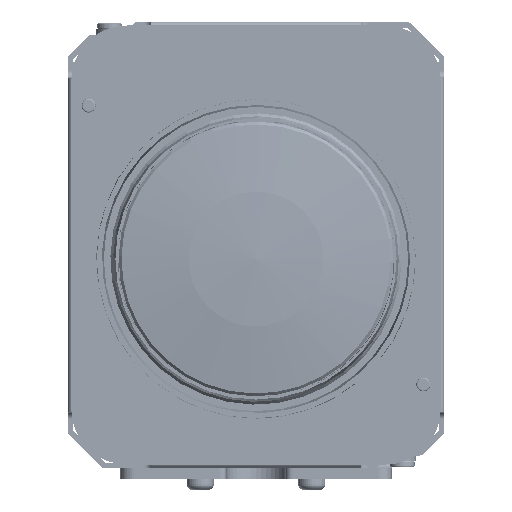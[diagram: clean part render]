
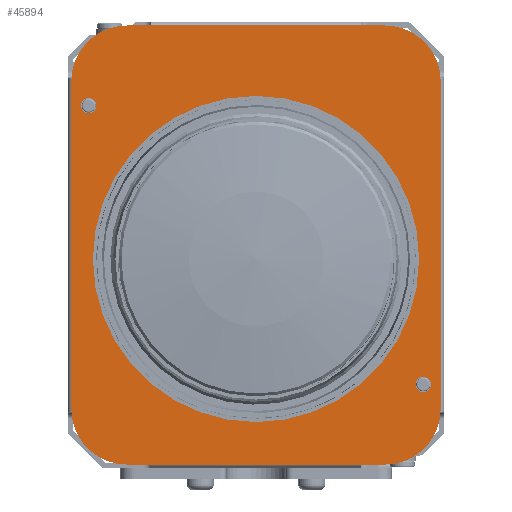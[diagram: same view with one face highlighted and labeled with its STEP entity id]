
A CAD part, left-side view. The second image highlights one B-rep face of the part: STEP entity #45894.
In plain terms, the highlighted planar face has unit normal (-1, 0, 0) as drawn and (0, 0, 1) by its records, which use the part's own axes.
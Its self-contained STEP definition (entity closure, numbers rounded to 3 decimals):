
#45894 = ADVANCED_FACE( '', ( #99419, #99420, #99421, #99422 ), #99423, .T. );
#99419 = FACE_OUTER_BOUND( '', #178447, .T. );
#99420 = FACE_BOUND( '', #178448, .T. );
#99421 = FACE_BOUND( '', #178449, .T. );
#99422 = FACE_BOUND( '', #178450, .T. );
#99423 = PLANE( '', #178451 );
#178447 = EDGE_LOOP( '', ( #314211, #314212, #314213, #314214, #314215, #314216, #314217, #314218 ) );
#178448 = EDGE_LOOP( '', ( #314219 ) );
#178449 = EDGE_LOOP( '', ( #314220 ) );
#178450 = EDGE_LOOP( '', ( #314221 ) );
#178451 = AXIS2_PLACEMENT_3D( '', #314222, #314223, #314224 );
#314211 = ORIENTED_EDGE( '', *, *, #475616, .F. );
#314212 = ORIENTED_EDGE( '', *, *, #475617, .F. );
#314213 = ORIENTED_EDGE( '', *, *, #475618, .F. );
#314214 = ORIENTED_EDGE( '', *, *, #463747, .F. );
#314215 = ORIENTED_EDGE( '', *, *, #475619, .F. );
#314216 = ORIENTED_EDGE( '', *, *, #475620, .F. );
#314217 = ORIENTED_EDGE( '', *, *, #475621, .F. );
#314218 = ORIENTED_EDGE( '', *, *, #475622, .F. );
#314219 = ORIENTED_EDGE( '', *, *, #475623, .F. );
#314220 = ORIENTED_EDGE( '', *, *, #475624, .F. );
#314221 = ORIENTED_EDGE( '', *, *, #475625, .F. );
#314222 = CARTESIAN_POINT( '', ( 0., 0., 57.75 ) );
#314223 = DIRECTION( '', ( 0., 0., 1. ) );
#314224 = DIRECTION( '', ( 1., 0., 0. ) );
#463747 = EDGE_CURVE( '', #533118, #533121, #533122, .T. );
#475616 = EDGE_CURVE( '', #553606, #553607, #553608, .T. );
#475617 = EDGE_CURVE( '', #553609, #553606, #553610, .T. );
#475618 = EDGE_CURVE( '', #533121, #553609, #553611, .T. );
#475619 = EDGE_CURVE( '', #553612, #533118, #553613, .T. );
#475620 = EDGE_CURVE( '', #553614, #553612, #553615, .T. );
#475621 = EDGE_CURVE( '', #553616, #553614, #553617, .T. );
#475622 = EDGE_CURVE( '', #553607, #553616, #553618, .T. );
#475623 = EDGE_CURVE( '', #553619, #553619, #553620, .T. );
#475624 = EDGE_CURVE( '', #553621, #553621, #553622, .T. );
#475625 = EDGE_CURVE( '', #553623, #553623, #553624, .T. );
#533118 = VERTEX_POINT( '', #633209 );
#533121 = VERTEX_POINT( '', #633213 );
#533122 = CIRCLE( '', #633214, 8. );
#553606 = VERTEX_POINT( '', #666040 );
#553607 = VERTEX_POINT( '', #666041 );
#553608 = LINE( '', #666042, #666043 );
#553609 = VERTEX_POINT( '', #666044 );
#553610 = CIRCLE( '', #666045, 8. );
#553611 = LINE( '', #666046, #666047 );
#553612 = VERTEX_POINT( '', #666048 );
#553613 = LINE( '', #666049, #666050 );
#553614 = VERTEX_POINT( '', #666051 );
#553615 = CIRCLE( '', #666052, 8. );
#553616 = VERTEX_POINT( '', #666053 );
#553617 = LINE( '', #666054, #666055 );
#553618 = CIRCLE( '', #666056, 8. );
#553619 = VERTEX_POINT( '', #666057 );
#553620 = CIRCLE( '', #666058, 1.1 );
#553621 = VERTEX_POINT( '', #666059 );
#553622 = CIRCLE( '', #666060, 1.1 );
#553623 = VERTEX_POINT( '', #666061 );
#553624 = CIRCLE( '', #666062, 23.4 );
#633209 = CARTESIAN_POINT( '', ( -26.5, 25.5, 57.75 ) );
#633213 = CARTESIAN_POINT( '', ( -18.5, 33.5, 57.75 ) );
#633214 = AXIS2_PLACEMENT_3D( '', #783059, #783060, #783061 );
#666040 = CARTESIAN_POINT( '', ( 26.5, 25.5, 57.75 ) );
#666041 = CARTESIAN_POINT( '', ( 26.5, -21.5, 57.75 ) );
#666042 = CARTESIAN_POINT( '', ( 26.5, 25.5, 57.75 ) );
#666043 = VECTOR( '', #796942, 1000. );
#666044 = CARTESIAN_POINT( '', ( 18.5, 33.5, 57.75 ) );
#666045 = AXIS2_PLACEMENT_3D( '', #796943, #796944, #796945 );
#666046 = CARTESIAN_POINT( '', ( -18.5, 33.5, 57.75 ) );
#666047 = VECTOR( '', #796946, 1000. );
#666048 = CARTESIAN_POINT( '', ( -26.5, -21.5, 57.75 ) );
#666049 = CARTESIAN_POINT( '', ( -26.5, -21.5, 57.75 ) );
#666050 = VECTOR( '', #796947, 1000. );
#666051 = CARTESIAN_POINT( '', ( -18.5, -29.5, 57.75 ) );
#666052 = AXIS2_PLACEMENT_3D( '', #796948, #796949, #796950 );
#666053 = CARTESIAN_POINT( '', ( 18.5, -29.5, 57.75 ) );
#666054 = CARTESIAN_POINT( '', ( 18.5, -29.5, 57.75 ) );
#666055 = VECTOR( '', #796951, 1000. );
#666056 = AXIS2_PLACEMENT_3D( '', #796952, #796953, #796954 );
#666057 = CARTESIAN_POINT( '', ( 25.1, -18., 57.75 ) );
#666058 = AXIS2_PLACEMENT_3D( '', #796955, #796956, #796957 );
#666059 = CARTESIAN_POINT( '', ( -22.9, 22., 57.75 ) );
#666060 = AXIS2_PLACEMENT_3D( '', #796958, #796959, #796960 );
#666061 = CARTESIAN_POINT( '', ( 23.4, 0., 57.75 ) );
#666062 = AXIS2_PLACEMENT_3D( '', #796961, #796962, #796963 );
#783059 = CARTESIAN_POINT( '', ( -18.5, 25.5, 57.75 ) );
#783060 = DIRECTION( '', ( 0., 0., -1. ) );
#783061 = DIRECTION( '', ( -1., 0., 0. ) );
#796942 = DIRECTION( '', ( 0., -1., 0. ) );
#796943 = CARTESIAN_POINT( '', ( 18.5, 25.5, 57.75 ) );
#796944 = DIRECTION( '', ( 0., 0., -1. ) );
#796945 = DIRECTION( '', ( 0., 1., 0. ) );
#796946 = DIRECTION( '', ( 1., 0., 0. ) );
#796947 = DIRECTION( '', ( 0., 1., 0. ) );
#796948 = CARTESIAN_POINT( '', ( -18.5, -21.5, 57.75 ) );
#796949 = DIRECTION( '', ( 0., 0., -1. ) );
#796950 = DIRECTION( '', ( 0., -1., 0. ) );
#796951 = DIRECTION( '', ( -1., 0., 0. ) );
#796952 = CARTESIAN_POINT( '', ( 18.5, -21.5, 57.75 ) );
#796953 = DIRECTION( '', ( 0., 0., -1. ) );
#796954 = DIRECTION( '', ( 1., 0., 0. ) );
#796955 = CARTESIAN_POINT( '', ( 24., -18., 57.75 ) );
#796956 = DIRECTION( '', ( 0., 0., 1. ) );
#796957 = DIRECTION( '', ( 1., 0., 0. ) );
#796958 = CARTESIAN_POINT( '', ( -24., 22., 57.75 ) );
#796959 = DIRECTION( '', ( 0., 0., 1. ) );
#796960 = DIRECTION( '', ( 1., 0., 0. ) );
#796961 = CARTESIAN_POINT( '', ( 0., 0., 57.75 ) );
#796962 = DIRECTION( '', ( 0., 0., 1. ) );
#796963 = DIRECTION( '', ( 1., 0., 0. ) );
